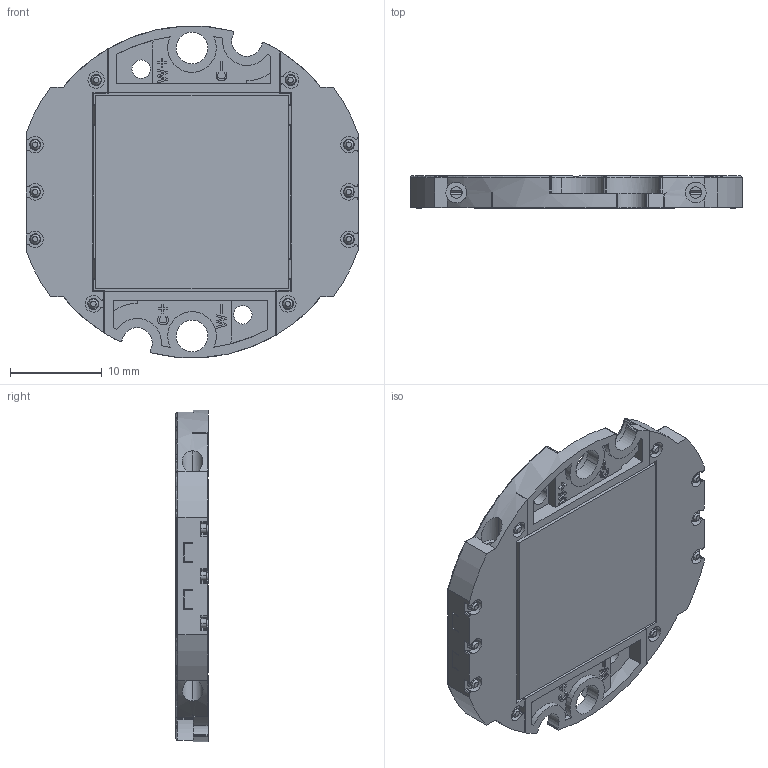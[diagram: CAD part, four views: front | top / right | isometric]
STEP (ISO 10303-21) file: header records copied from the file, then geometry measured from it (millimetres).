
FILE_DESCRIPTION (( 'STEP AP214' ), '1' );
FILE_NAME ('MX Vero18 SE.STEP', '2023-07-27T03:03:51', ( '' ), ( '' ), 'SwSTEP 2.0', 'SolidWorks 2018', '' );
FILE_SCHEMA (( 'AUTOMOTIVE_DESIGN' ));
Length unit declared in the file: millimetre
Products named in the file (1): MX Vero18 SE
Bounding box: 36.2 x 3.5 x 36.19 mm (x, y, z)
Volume: 2274.9 mm3; surface area: 4445.7 mm2
Topology: 1 solids, 5 shells, 1348 faces, 3548 edges, 2247 vertices
Faces by surface type: plane 793, cylinder 417, bspline 48, sphere 42, torus 26, cone 22
Entity records: 56972 total; most frequent: CARTESIAN_POINT 8524, ORIENTED_EDGE 7092, DIRECTION 6930, EDGE_CURVE 3546, VECTOR 2418, LINE 2418, AXIS2_PLACEMENT_3D 2256, VERTEX_POINT 2247
